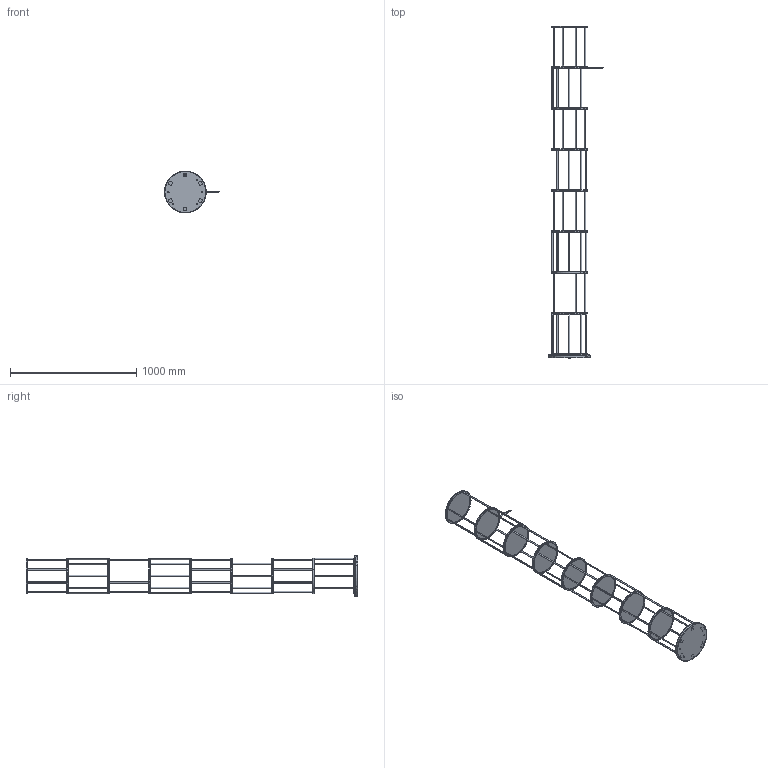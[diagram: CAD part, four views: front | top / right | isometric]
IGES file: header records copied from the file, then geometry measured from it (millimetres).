
Start section: SolidWorks IGES file using analytic representation for surfaces
Global section: file name: \\UTENTI\Dati Utenti\Tecnico\DC\2D - 3D per sito\3D\DeCastelli-3D-Babele 28 8 shelves.igs; native system: SolidWorks 2022; preprocessor: SolidWorks 2022; author: Silviad; date: 240808.120228; units: millimetre
Bounding box: 434.8 x 2633.3 x 329.6 mm (x, y, z)
Surface area: 2509903.7 mm2 (no closed solid volume)
Topology: 0 solids, 0 shells, 463 faces, 12831 edges, 12829 vertices
Faces by surface type: revolution 339, bspline 124
